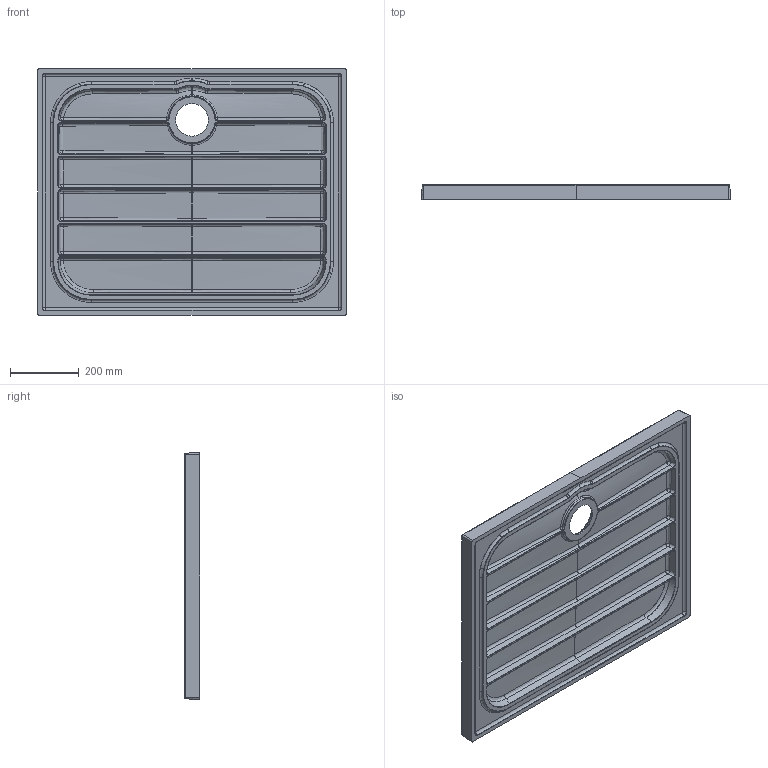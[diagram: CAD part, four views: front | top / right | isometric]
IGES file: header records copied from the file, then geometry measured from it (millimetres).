
Start section: START RECORD GO HERE.
Global section: file name: 3D_1080.igs; native system: DASSAULT SYSTEMES CATIA V5 R19 - www.3ds.com; preprocessor: CATIA Version 5 Release 19 SP 5 ; author: Luca; organization: DESKTOP-V7SON24; date: 20221025.091401; units: millimetre
Bounding box: 901.14 x 45 x 720.14 mm (x, y, z)
Surface area: 1619504.5 mm2 (no closed solid volume)
Topology: 0 solids, 0 shells, 960 faces, 4473 edges, 4446 vertices
Faces by surface type: bspline 833, revolution 111, plane 16
